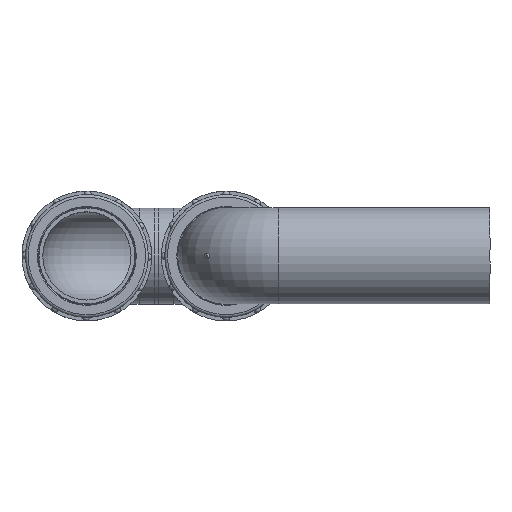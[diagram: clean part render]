
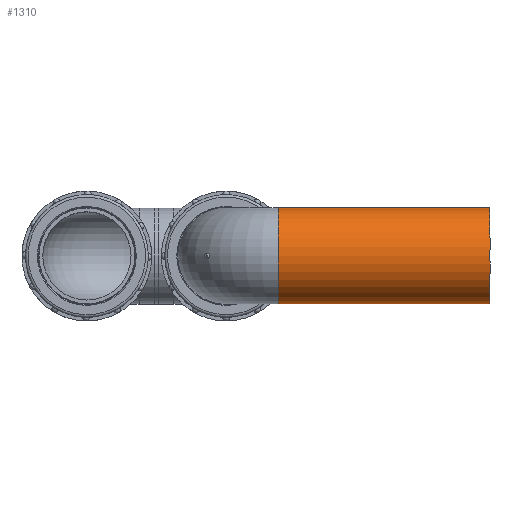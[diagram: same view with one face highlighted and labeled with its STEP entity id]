
A CAD part, top view. The second image highlights one B-rep face of the part: STEP entity #1310.
In plain terms, the highlighted cylindrical face has radius 55.2 mm (diameter 110.4 mm), a full revolution.
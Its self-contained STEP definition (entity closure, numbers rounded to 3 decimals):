
#222=FACE_BOUND($,#382,.T.);
#278=FACE_OUTER_BOUND($,#381,.T.);
#381=EDGE_LOOP($,(#902));
#382=EDGE_LOOP($,(#903));
#492=CIRCLE($,#1440,55.2);
#493=CIRCLE($,#1441,55.2);
#601=VERTEX_POINT($,#2223);
#602=VERTEX_POINT($,#2225);
#722=EDGE_CURVE($,#601,#601,#492,.T.);
#723=EDGE_CURVE($,#602,#602,#493,.T.);
#902=ORIENTED_EDGE($,*,*,#722,.F.);
#903=ORIENTED_EDGE($,*,*,#723,.T.);
#1179=CYLINDRICAL_SURFACE($,#1439,55.2);
#1310=ADVANCED_FACE($,(#278,#222),#1179,.T.);
#1439=AXIS2_PLACEMENT_3D($,#2222,#1713,#1714);
#1440=AXIS2_PLACEMENT_3D($,#2224,#1715,#1716);
#1441=AXIS2_PLACEMENT_3D($,#2226,#1717,#1718);
#1713=DIRECTION('center_axis',(0.,1.,0.));
#1714=DIRECTION('ref_axis',(1.,0.,0.));
#1715=DIRECTION('center_axis',(0.,-1.,0.));
#1716=DIRECTION('ref_axis',(1.,0.,0.));
#1717=DIRECTION('center_axis',(0.,-1.,0.));
#1718=DIRECTION('ref_axis',(1.,0.,0.));
#2222=CARTESIAN_POINT('Origin',(0.,0.,0.));
#2223=CARTESIAN_POINT('',(-55.2,0.,0.));
#2224=CARTESIAN_POINT('Origin',(0.,0.,0.));
#2225=CARTESIAN_POINT('',(-55.2,243.,0.));
#2226=CARTESIAN_POINT('Origin',(0.,243.,0.));
